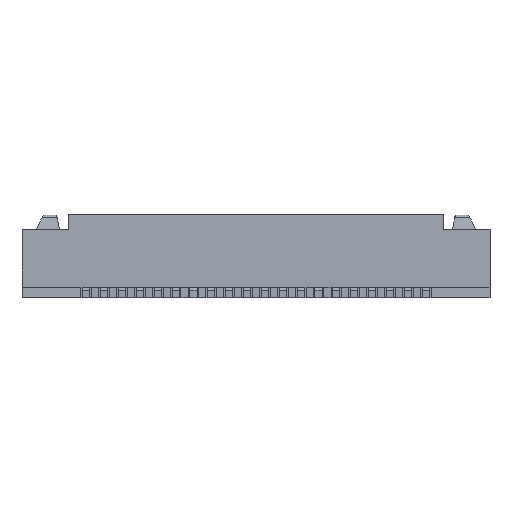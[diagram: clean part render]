
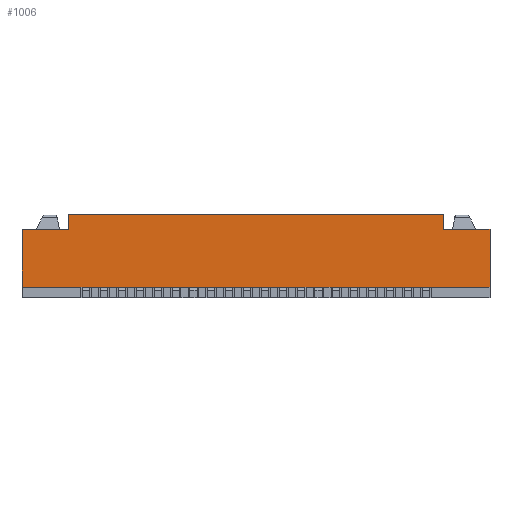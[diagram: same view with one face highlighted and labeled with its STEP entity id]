
A CAD part, front view. The second image highlights one B-rep face of the part: STEP entity #1006.
In plain terms, the highlighted planar face has unit normal (0, -1, 0).
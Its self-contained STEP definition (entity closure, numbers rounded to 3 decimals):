
#399=CARTESIAN_POINT('Vertex',(-5.25,-2.4,1.92)) ;
#402=CARTESIAN_POINT('Line Origine',(-5.25,-2.4,2.135)) ;
#406=CARTESIAN_POINT('Vertex',(-5.25,-2.4,2.35)) ;
#944=CARTESIAN_POINT('Axis2P3D Location',(0.,-2.4,0.3)) ;
#949=CARTESIAN_POINT('Line Origine',(-5.9,-2.4,1.92)) ;
#953=CARTESIAN_POINT('Vertex',(-6.55,-2.4,1.92)) ;
#956=CARTESIAN_POINT('Line Origine',(-6.55,-2.4,1.11)) ;
#960=CARTESIAN_POINT('Vertex',(-6.55,-2.4,0.3)) ;
#963=CARTESIAN_POINT('Line Origine',(0.,-2.4,0.3)) ;
#967=CARTESIAN_POINT('Vertex',(6.55,-2.4,0.3)) ;
#970=CARTESIAN_POINT('Line Origine',(6.55,-2.4,1.11)) ;
#974=CARTESIAN_POINT('Vertex',(6.55,-2.4,1.92)) ;
#977=CARTESIAN_POINT('Line Origine',(5.9,-2.4,1.92)) ;
#981=CARTESIAN_POINT('Vertex',(5.25,-2.4,1.92)) ;
#984=CARTESIAN_POINT('Line Origine',(5.25,-2.4,2.135)) ;
#988=CARTESIAN_POINT('Vertex',(5.25,-2.4,2.35)) ;
#991=CARTESIAN_POINT('Line Origine',(0.,-2.4,2.35)) ;
#403=DIRECTION('Vector Direction',(0.,0.,-1.)) ;
#945=DIRECTION('Axis2P3D Direction',(0.,1.,0.)) ;
#946=DIRECTION('Axis2P3D XDirection',(0.,0.,1.)) ;
#950=DIRECTION('Vector Direction',(1.,0.,0.)) ;
#957=DIRECTION('Vector Direction',(0.,0.,1.)) ;
#964=DIRECTION('Vector Direction',(1.,0.,0.)) ;
#971=DIRECTION('Vector Direction',(0.,0.,1.)) ;
#978=DIRECTION('Vector Direction',(-1.,0.,0.)) ;
#985=DIRECTION('Vector Direction',(0.,0.,-1.)) ;
#992=DIRECTION('Vector Direction',(1.,0.,0.)) ;
#947=AXIS2_PLACEMENT_3D('Plane Axis2P3D',#944,#945,#946) ;
#997=ORIENTED_EDGE('',*,*,#408,.T.) ;
#998=ORIENTED_EDGE('',*,*,#955,.F.) ;
#999=ORIENTED_EDGE('',*,*,#962,.T.) ;
#1000=ORIENTED_EDGE('',*,*,#969,.T.) ;
#1001=ORIENTED_EDGE('',*,*,#976,.F.) ;
#1002=ORIENTED_EDGE('',*,*,#983,.T.) ;
#1003=ORIENTED_EDGE('',*,*,#990,.F.) ;
#1004=ORIENTED_EDGE('',*,*,#995,.F.) ;
#404=VECTOR('Line Direction',#403,1.) ;
#951=VECTOR('Line Direction',#950,1.) ;
#958=VECTOR('Line Direction',#957,1.) ;
#965=VECTOR('Line Direction',#964,1.) ;
#972=VECTOR('Line Direction',#971,1.) ;
#979=VECTOR('Line Direction',#978,1.) ;
#986=VECTOR('Line Direction',#985,1.) ;
#993=VECTOR('Line Direction',#992,1.) ;
#1006=ADVANCED_FACE('\X2\96F64EF651E04F554F53\X0\',(#1005),#948,.F.) ;
#408=EDGE_CURVE('',#407,#400,#405,.T.) ;
#955=EDGE_CURVE('',#954,#400,#952,.T.) ;
#962=EDGE_CURVE('',#954,#961,#959,.F.) ;
#969=EDGE_CURVE('',#961,#968,#966,.T.) ;
#976=EDGE_CURVE('',#975,#968,#973,.F.) ;
#983=EDGE_CURVE('',#975,#982,#980,.T.) ;
#990=EDGE_CURVE('',#989,#982,#987,.T.) ;
#995=EDGE_CURVE('',#407,#989,#994,.T.) ;
#996=EDGE_LOOP('',(#997,#998,#999,#1000,#1001,#1002,#1003,#1004)) ;
#1005=FACE_OUTER_BOUND('',#996,.T.) ;
#405=LINE('Line',#402,#404) ;
#952=LINE('Line',#949,#951) ;
#959=LINE('Line',#956,#958) ;
#966=LINE('Line',#963,#965) ;
#973=LINE('Line',#970,#972) ;
#980=LINE('Line',#977,#979) ;
#987=LINE('Line',#984,#986) ;
#994=LINE('Line',#991,#993) ;
#948=PLANE('Plane',#947) ;
#400=VERTEX_POINT('',#399) ;
#407=VERTEX_POINT('',#406) ;
#954=VERTEX_POINT('',#953) ;
#961=VERTEX_POINT('',#960) ;
#968=VERTEX_POINT('',#967) ;
#975=VERTEX_POINT('',#974) ;
#982=VERTEX_POINT('',#981) ;
#989=VERTEX_POINT('',#988) ;
